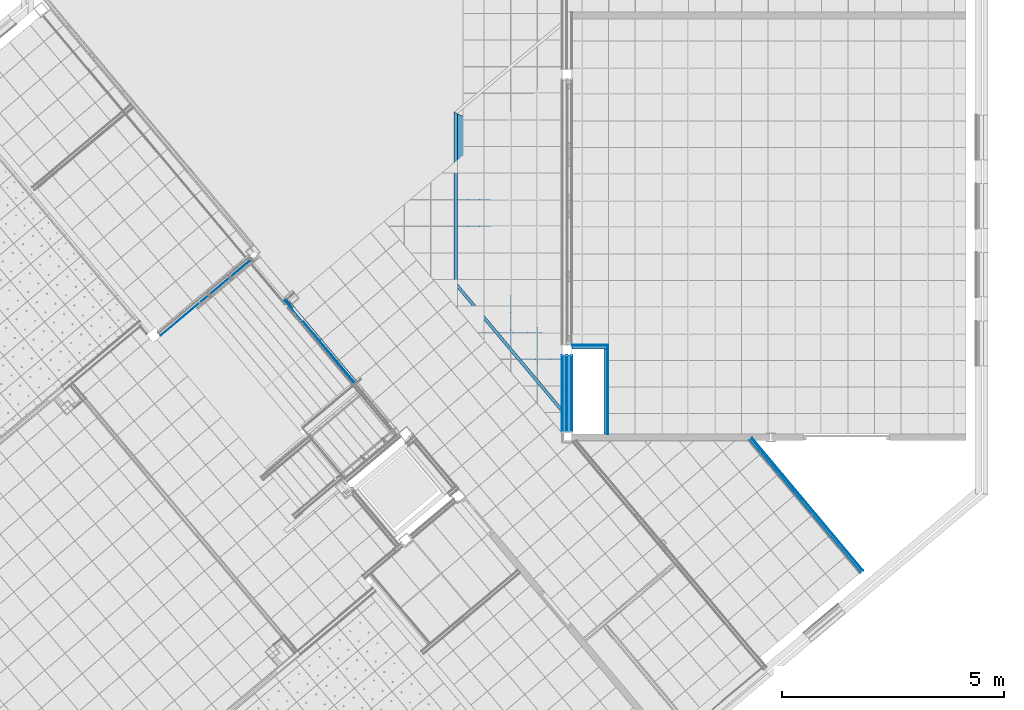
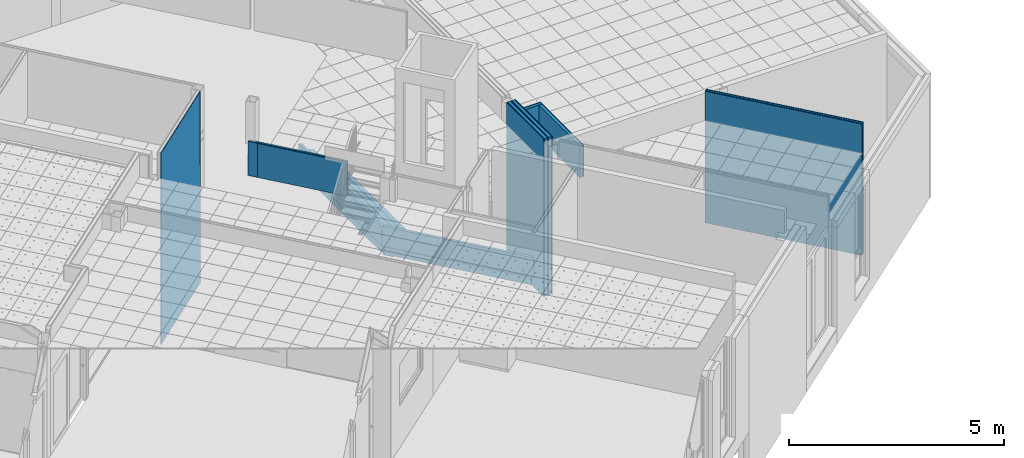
# One storey, part 71 of 338: 30 building element parts, 10 elements without a shape of their own.
"""IFC2X3 building model written with IfcOpenShell, lengths in millimetres."""

from ifc_helpers import new_model, entity, si_unit, converted_unit, derived_unit, money_unit, direction, frame, origin_with_axes, place, context, subcontext, project, spatial, faceted_brep, material, type_object, element, aggregate, save


model = new_model("IFC2X3")

# Units and contexts
model_context = context("Model", 3, precision=0.01, world=origin_with_axes(), true_north=direction((0.0, 1.0)))
plan_context = context("Plan", 3, precision=0.01, world=origin_with_axes(), true_north=direction((0.0, 1.0)))
body_context = subcontext(model_context, "Body", "Model", "MODEL_VIEW")
ifc_project = project(units=[si_unit("LENGTHUNIT", "METRE", prefix="MILLI"), si_unit("AREAUNIT", "SQUARE_METRE"), si_unit("VOLUMEUNIT", "CUBIC_METRE"), converted_unit("PLANEANGLEUNIT", "DEGREE", entity("IfcPlaneAngleMeasure", 0.0174532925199), si_unit("PLANEANGLEUNIT", "RADIAN"), dimensions=[0, 0, 0, 0, 0, 0, 0]), money_unit("EUR"), converted_unit("TIMEUNIT", "Year", entity("IfcTimeMeasure", 31556926.0), si_unit("TIMEUNIT", "SECOND"), dimensions=[0, 0, 1, 0, 0, 0, 0]), si_unit("MASSUNIT", "GRAM", prefix="KILO"), si_unit("THERMODYNAMICTEMPERATUREUNIT", "DEGREE_CELSIUS"), si_unit("LUMINOUSINTENSITYUNIT", "LUMEN"), si_unit("ENERGYUNIT", "JOULE", prefix="MEGA"), derived_unit("THERMALCONDUCTANCEUNIT", [(si_unit("POWERUNIT", "WATT"), 1), (si_unit("LENGTHUNIT", "METRE"), -1), (si_unit("THERMODYNAMICTEMPERATUREUNIT", "KELVIN"), -1)]), derived_unit("SPECIFICHEATCAPACITYUNIT", [(si_unit("ENERGYUNIT", "JOULE"), 1), (si_unit("MASSUNIT", "GRAM", prefix="KILO"), -1), (si_unit("THERMODYNAMICTEMPERATUREUNIT", "KELVIN"), -1)]), derived_unit("MASSDENSITYUNIT", [(si_unit("MASSUNIT", "GRAM", prefix="KILO"), 1), (si_unit("VOLUMEUNIT", "CUBIC_METRE"), -1)])], contexts=[model_context, plan_context])

# Site, building, storey
site_placement = place(None, origin_with_axes())
site = spatial("IfcSite", under=ifc_project, at=site_placement, Name="Fortuinstraat Woensdrecht", CompositionType="ELEMENT")
building_placement = place(site_placement, origin_with_axes())
building = spatial("IfcBuilding", under=site, at=building_placement, Name="IKC Fortuna", CompositionType="ELEMENT")
storey_placement = place(building_placement, origin_with_axes())
storey = spatial("IfcBuildingStorey", under=building, at=storey_placement, Name="00 begane grond", CompositionType="ELEMENT", Elevation=0.0)

# Wall, building element parts
wall_type_1 = type_object("IfcWallType", Name="MS125 2.75.2A 125", PredefinedType="NOTDEFINED")
wall_1_placement = place(storey_placement, frame((25497.9349765, 3599.79662827, -835.0), z_axis=(0.0, 0.0, 1.0), x_axis=(0.0, -1.0, 0.0)))
wall_1 = element("IfcWall", 1, at=wall_1_placement, inside=storey, type_object=wall_type_1, Name="22_Wand_Binnenwand")
ifc_material_1 = material(Name="Gipsplaat")
building_element_part_1_placement = place(wall_1_placement, origin_with_axes())
building_element_part_1 = element("IfcBuildingElementPart", 2, at=building_element_part_1_placement, material=ifc_material_1, Name="Gipsplaat", context=body_context, shape_type="Brep", body=[
    faceted_brep([(1725.0, 112.5, 4485.0), (1725.0, 125.0, 4485.0), (0.0, 125.0, 4485.0), (0.0, 112.5, 4485.0), (1725.0, 112.5, 0.0), (1725.0, 125.0, 0.0), (0.0, 125.0, 0.0), (0.0, 112.5, 0.0)], [[[0, 1, 2, 3]], [[0, 4, 5, 1]], [[1, 5, 6, 2]], [[3, 2, 6, 7]], [[4, 0, 3, 7]], [[5, 4, 7, 6]]]),
])
building_element_part_2_placement = place(wall_1_placement, origin_with_axes())
building_element_part_2 = element("IfcBuildingElementPart", 3, at=building_element_part_2_placement, material=ifc_material_1, Name="Gipsplaat", context=body_context, shape_type="Brep", body=[
    faceted_brep([(1725.0, 100.0, 4485.0), (1725.0, 112.5, 4485.0), (0.0, 112.5, 4485.0), (0.0, 100.0, 4485.0), (1725.0, 100.0, 0.0), (1725.0, 112.5, 0.0), (0.0, 112.5, 0.0), (0.0, 100.0, 0.0)], [[[0, 1, 2, 3]], [[0, 4, 5, 1]], [[1, 5, 6, 2]], [[3, 2, 6, 7]], [[4, 0, 3, 7]], [[5, 4, 7, 6]]]),
])
ifc_material_2 = material(Name="Isolatie - Steenwol LSW")
building_element_part_3_placement = place(wall_1_placement, origin_with_axes())
building_element_part_3 = element("IfcBuildingElementPart", 4, at=building_element_part_3_placement, material=ifc_material_2, Name="Isolatie - Steenwol LSW", context=body_context, shape_type="Brep", body=[
    faceted_brep([(1725.0, 25.0, 4485.0), (1725.0, 100.0, 4485.0), (0.0, 100.0, 4485.0), (0.0, 25.0, 4485.0), (1725.0, 25.0, 0.0), (1725.0, 100.0, 0.0), (0.0, 100.0, 0.0), (0.0, 25.0, 0.0)], [[[0, 1, 2, 3]], [[0, 4, 5, 1]], [[1, 5, 6, 2]], [[3, 2, 6, 7]], [[4, 0, 3, 7]], [[5, 4, 7, 6]]]),
])
building_element_part_4_placement = place(wall_1_placement, origin_with_axes())
building_element_part_4 = element("IfcBuildingElementPart", 5, at=building_element_part_4_placement, material=ifc_material_1, Name="Gipsplaat", context=body_context, shape_type="Brep", body=[
    faceted_brep([(1725.0, 12.5, 4485.0), (1725.0, 25.0, 4485.0), (0.0, 25.0, 4485.0), (0.0, 12.5, 4485.0), (1725.0, 12.5, 0.0), (1725.0, 25.0, 0.0), (0.0, 25.0, 0.0), (0.0, 12.5, 0.0)], [[[0, 1, 2, 3]], [[0, 4, 5, 1]], [[1, 5, 6, 2]], [[3, 2, 6, 7]], [[4, 0, 3, 7]], [[5, 4, 7, 6]]]),
])
building_element_part_5_placement = place(wall_1_placement, origin_with_axes())
building_element_part_5 = element("IfcBuildingElementPart", 6, at=building_element_part_5_placement, material=ifc_material_1, Name="Gipsplaat", context=body_context, shape_type="Brep", body=[
    faceted_brep([(1725.0, 0.0, 4485.0), (1725.0, 12.5, 4485.0), (0.0, 12.5, 4485.0), (0.0, 0.0, 4485.0), (1725.0, 0.0, 0.0), (1725.0, 12.5, 0.0), (0.0, 12.5, 0.0), (0.0, 0.0, 0.0)], [[[0, 1, 2, 3]], [[0, 4, 5, 1]], [[1, 5, 6, 2]], [[3, 2, 6, 7]], [[4, 0, 3, 7]], [[5, 4, 7, 6]]]),
])
aggregate(wall_1, [building_element_part_1, building_element_part_2, building_element_part_3, building_element_part_4, building_element_part_5])

wall_type_2 = type_object("IfcWallType", Name="MS100 2.50.2A 100", PredefinedType="NOTDEFINED")
wall_2_placement = place(storey_placement, frame((32300.9666608, -1241.88466882, -90.0), z_axis=(0.0, 0.0, 1.0), x_axis=(-0.642787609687, 0.766044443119, 0.0)))
wall_2 = element("IfcWall", 7, at=wall_2_placement, inside=storey, type_object=wall_type_2, Name="22_Wand_Binnenwand")
building_element_part_6_placement = place(wall_2_placement, origin_with_axes())
building_element_part_6 = element("IfcBuildingElementPart", 8, at=building_element_part_6_placement, material=ifc_material_1, Name="Gipsplaat", context=body_context, shape_type="Brep", body=[
    faceted_brep([(3894.62424743, 87.5, 3740.0), (3894.62424743, 100.0, 3740.0), (0.0, 100.0, 3740.0), (0.0, 87.5, 3740.0), (3894.62424743, 87.5, 0.0), (3894.62424743, 100.0, 0.0), (0.0, 100.0, 0.0), (0.0, 87.5, 0.0)], [[[0, 1, 2, 3]], [[0, 4, 5, 1]], [[1, 5, 6, 2]], [[3, 2, 6, 7]], [[4, 0, 3, 7]], [[5, 4, 7, 6]]]),
])
building_element_part_7_placement = place(wall_2_placement, origin_with_axes())
building_element_part_7 = element("IfcBuildingElementPart", 9, at=building_element_part_7_placement, material=ifc_material_1, Name="Gipsplaat", context=body_context, shape_type="Brep", body=[
    faceted_brep([(3894.62424743, 75.0, 3740.0), (3894.62424743, 87.5, 3740.0), (0.0, 87.5, 3740.0), (0.0, 75.0, 3740.0), (3894.62424743, 75.0, 0.0), (3894.62424743, 87.5, 0.0), (0.0, 87.5, 0.0), (0.0, 75.0, 0.0)], [[[0, 1, 2, 3]], [[0, 4, 5, 1]], [[1, 5, 6, 2]], [[3, 2, 6, 7]], [[4, 0, 3, 7]], [[5, 4, 7, 6]]]),
])
building_element_part_8_placement = place(wall_2_placement, origin_with_axes())
building_element_part_8 = element("IfcBuildingElementPart", 10, at=building_element_part_8_placement, material=ifc_material_2, Name="Isolatie - Steenwol LSW", context=body_context, shape_type="Brep", body=[
    faceted_brep([(3894.62424743, 25.0, 3740.0), (3894.62424743, 75.0, 3740.0), (0.0, 75.0, 3740.0), (0.0, 25.0, 3740.0), (3894.62424743, 25.0, 0.0), (3894.62424743, 75.0, 0.0), (0.0, 75.0, 0.0), (0.0, 25.0, 0.0)], [[[0, 1, 2, 3]], [[0, 4, 5, 1]], [[1, 5, 6, 2]], [[3, 2, 6, 7]], [[4, 0, 3, 7]], [[5, 4, 7, 6]]]),
])
building_element_part_9_placement = place(wall_2_placement, origin_with_axes())
building_element_part_9 = element("IfcBuildingElementPart", 11, at=building_element_part_9_placement, material=ifc_material_1, Name="Gipsplaat", context=body_context, shape_type="Brep", body=[
    faceted_brep([(3894.62424743, 12.5, 3740.0), (3894.62424743, 25.0, 3740.0), (0.0, 25.0, 3740.0), (0.0, 12.5, 3740.0), (3894.62424743, 12.5, 0.0), (3894.62424743, 25.0, 0.0), (0.0, 25.0, 0.0), (0.0, 12.5, 0.0)], [[[0, 1, 2, 3]], [[0, 4, 5, 1]], [[1, 5, 6, 2]], [[3, 2, 6, 7]], [[4, 0, 3, 7]], [[5, 4, 7, 6]]]),
])
building_element_part_10_placement = place(wall_2_placement, origin_with_axes())
building_element_part_10 = element("IfcBuildingElementPart", 12, at=building_element_part_10_placement, material=ifc_material_1, Name="Gipsplaat", context=body_context, shape_type="Brep", body=[
    faceted_brep([(3894.62424743, 0.0, 3740.0), (3894.62424743, 12.5, 3740.0), (0.0, 12.5, 3740.0), (0.0, 0.0, 3740.0), (3894.62424743, 0.0, 0.0), (3894.62424743, 12.5, 0.0), (0.0, 12.5, 0.0), (0.0, 0.0, 0.0)], [[[0, 1, 2, 3]], [[0, 4, 5, 1]], [[1, 5, 6, 2]], [[3, 2, 6, 7]], [[4, 0, 3, 7]], [[5, 4, 7, 6]]]),
])
aggregate(wall_2, [building_element_part_6, building_element_part_7, building_element_part_8, building_element_part_9, building_element_part_10])

# Wall, building element part
wall_3_placement = place(storey_placement, frame((16458.2534376, 4043.70975416, -350.0), z_axis=(0.0, 0.0, 1.0), x_axis=(0.766044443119, 0.642787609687, 0.0)))
wall_3 = element("IfcWall", 13, at=wall_3_placement, inside=storey, type_object=wall_type_2, Name="22_Wand_Binnenwand")
building_element_part_11_placement = place(wall_3_placement, origin_with_axes())
building_element_part_11 = element("IfcBuildingElementPart", 14, at=building_element_part_11_placement, material=ifc_material_1, Name="Gipsplaat", context=body_context, shape_type="Brep", body=[
    faceted_brep([(2677.99994969, 5.48433263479, 3350.0), (2652.99994969, 5.48433645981, 3350.0), (2652.99994885, 0.0, 3350.0), (2677.99994885, 0.0, 3350.0), (2652.99994969, 5.48433645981, 5450.0), (2677.99994969, 5.48433263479, 5450.0), (2652.99994885, 0.0, 5450.0), (0.0, 0.0, 5450.0), (0.0, 0.0, 0.0), (2685.49994966, 0.0, 0.0), (2685.49994966, 0.0, 5450.0), (2677.99994885, 0.0, 5450.0), (2685.49994966, 12.5, 5450.0), (0.0, 12.5, 5450.0), (0.0, 12.5, 0.0), (2685.49994966, 12.5, 0.0)], [[[0, 1, 2, 3]], [[4, 1, 0, 5]], [[4, 6, 2, 1]], [[2, 6, 7, 8, 9, 10, 11, 3]], [[3, 11, 5, 0]], [[4, 5, 11, 10, 12, 13, 7, 6]], [[8, 7, 13, 14]], [[14, 15, 9, 8]], [[12, 10, 9, 15]], [[13, 12, 15, 14]]]),
])
aggregate(wall_3, [building_element_part_11])

# Stair, building element parts
stair_1_placement = place(storey_placement, frame((23891.1597189, 5500.2506472, -835.0), z_axis=(0.0, 0.0, 1.0), x_axis=(-0.766044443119, -0.642787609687, 0.0)))
stair_1 = element("IfcStair", 15, at=stair_1_placement, inside=storey, Name="24_Trap_Traptreden beton", ShapeType="NOTDEFINED")
ifc_material_3 = material(Name="Beton gewapend C")
building_element_part_12_placement = place(stair_1_placement, origin_with_axes())
building_element_part_12 = element("IfcBuildingElementPart", 16, at=building_element_part_12_placement, material=ifc_material_3, Name="Beton gewapend C", context=body_context, shape_type="Brep", body=[
    faceted_brep([(750.000004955, 3384.999824, 265.000000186), (820.0, 3467.62793626, 265.000000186), (820.0, -298.455588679, 265.000000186), (750.000004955, -272.977674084, 265.000000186), (750.000004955, 3384.999824, 648.749995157), (750.000004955, 3384.999824, 835.0), (820.0, 3467.62793626, 835.0), (820.0, -298.455588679, 835.0), (750.000004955, -272.977674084, 835.0), (750.000004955, -272.977674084, 648.749995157)], [[[0, 1, 2, 3]], [[0, 4, 5, 6, 1]], [[1, 6, 7, 2]], [[3, 2, 7, 8, 9]], [[4, 0, 3, 9]], [[5, 4, 9, 8]], [[6, 5, 8, 7]]]),
])
building_element_part_13_placement = place(stair_1_placement, origin_with_axes())
building_element_part_13 = element("IfcBuildingElementPart", 17, at=building_element_part_13_placement, material=ifc_material_3, Name="Beton gewapend C", context=body_context, shape_type="Brep", body=[
    faceted_brep([(750.000000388, 3384.99981861, 0.0), (0.0, 2499.69855275, 0.0), (0.0, 2499.69855275, 276.25), (250.0, 2794.79897455, 276.25), (250.0, 2794.79897455, 462.5), (500.0, 3089.89939635, 462.5), (500.0, 3089.89939635, 648.75), (750.0, 3384.99981815, 648.75), (750.000004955, 3384.999824, 265.000000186), (0.0, 3.41935901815e-06, 0.0), (750.000000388, -42.3023239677, 0.0), (601.724744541, -219.009892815, 0.0), (0.0, 3.41935901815e-06, 276.25), (250.0, -90.9925551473, 276.25), (250.0, -90.9925551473, 462.5), (500.0, -181.985113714, 462.5), (500.0, -181.985113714, 648.75), (750.0, -272.977672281, 648.75), (750.000004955, -272.977674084, 265.000000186), (750.0, -272.977672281, -22.5), (750.0, -42.3023244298, -22.5), (601.724744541, -219.009892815, -22.5)], [[[0, 1, 2, 3, 4, 5, 6, 7, 8]], [[9, 1, 0, 10, 11]], [[1, 9, 12, 2]], [[13, 3, 2, 12]], [[14, 4, 3, 13]], [[15, 5, 4, 14]], [[16, 6, 5, 15]], [[17, 7, 6, 16]], [[18, 8, 7, 17]], [[10, 0, 8, 18, 19, 20]], [[21, 11, 10, 20]], [[11, 21, 19, 18, 17, 16, 15, 14, 13, 12, 9]], [[21, 20, 19]]]),
])
aggregate(stair_1, [building_element_part_12, building_element_part_13])

stair_2_placement = place(storey_placement, frame((23891.1597189, 5500.2506472, -835.0), z_axis=(0.0, 0.0, 1.0), x_axis=(1.0, 0.0, 0.0)))
stair_2 = element("IfcStair", 18, at=stair_2_placement, inside=storey, Name="24_Trap_Traptreden beton", ShapeType="NOTDEFINED")
building_element_part_14_placement = place(stair_2_placement, origin_with_axes())
building_element_part_14 = element("IfcBuildingElementPart", 19, at=building_element_part_14_placement, material=ifc_material_3, Name="Beton gewapend C", context=body_context, shape_type="Brep", body=[
    faceted_brep([(-750.000004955, -272.977680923, 648.749995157), (-750.000004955, 3554.09506452, 648.749995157), (-750.000004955, 3554.09506452, 835.0), (-750.000004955, -272.977680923, 835.0), (-750.000004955, -272.977680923, 265.000000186), (-750.000004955, 3554.09506452, 265.000000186), (-820.0, 3586.73659828, 265.000000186), (-820.0, 3586.73659828, 835.0), (-820.0, -298.455595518, 835.0), (-820.0, -298.455595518, 265.000000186)], [[[0, 1, 2, 3]], [[4, 5, 1, 0]], [[2, 1, 5, 6, 7]], [[3, 2, 7, 8]], [[4, 0, 3, 8, 9]], [[9, 6, 5, 4]], [[8, 7, 6, 9]]]),
])
building_element_part_15_placement = place(stair_2_placement, origin_with_axes())
building_element_part_15 = element("IfcBuildingElementPart", 20, at=building_element_part_15_placement, material=ifc_material_3, Name="Beton gewapend C", context=body_context, shape_type="Brep", body=[
    faceted_brep([(0.0, -3.41936168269e-06, 0.0), (0.0, 3204.36431859, 0.0), (0.0, 3204.36431859, 276.25), (0.0, -3.41936168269e-06, 276.25), (-601.724742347, 3484.95317405, 0.0), (-601.724742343, -219.009898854, 0.0), (-601.724742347, 3484.95317405, -22.5), (-750.0, 3554.09506221, -22.5), (-750.000004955, 3554.09506452, 265.000000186), (-750.0, 3554.09506221, 648.75), (-500.0, 3437.51814767, 648.75), (-500.0, 3437.51814767, 462.5), (-250.0, 3320.94123313, 462.5), (-250.0, 3320.94123313, 276.25), (-250.0, -90.992561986, 276.25), (-250.0, -90.992561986, 462.5), (-500.0, -181.985120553, 462.5), (-500.0, -181.985120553, 648.75), (-750.0, -272.977679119, 648.75), (-750.000004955, -272.977680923, 265.000000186), (-750.0, -272.977679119, -22.5), (-601.724742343, -219.009898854, -22.5)], [[[0, 1, 2, 3]], [[4, 1, 0, 5]], [[4, 6, 7, 8, 9, 10, 11, 12, 13, 2, 1]], [[3, 2, 13, 14]], [[5, 0, 3, 14, 15, 16, 17, 18, 19, 20, 21]], [[6, 4, 5, 21]], [[6, 21, 20, 7]], [[19, 8, 7, 20]], [[18, 9, 8, 19]], [[17, 10, 9, 18]], [[16, 11, 10, 17]], [[15, 12, 11, 16]], [[14, 13, 12, 15]]]),
])
aggregate(stair_2, [building_element_part_14, building_element_part_15])

# Wall, building element parts
wall_type_3 = type_object("IfcWallType", Name="MS75 50.2A 75", PredefinedType="NOTDEFINED")
wall_4_placement = place(storey_placement, frame((19254.3413003, 4838.79723391, 3000.0), z_axis=(0.0, 0.0, 1.0), x_axis=(0.642787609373, -0.766044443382, 0.0)))
wall_4 = element("IfcWall", 21, at=wall_4_placement, inside=storey, type_object=wall_type_3, Name="22_Wand_koof")
building_element_part_16_placement = place(wall_4_placement, origin_with_axes())
building_element_part_16 = element("IfcBuildingElementPart", 22, at=building_element_part_16_placement, material=ifc_material_2, Name="Isolatie - Steenwol LSW", context=body_context, shape_type="Brep", body=[
    faceted_brep([(234.599943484, 67.4832244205, 0.0), (234.599943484, 67.4832244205, 20.0), (234.599943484, 75.0, 20.0), (234.599943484, 75.0, 633.0), (234.599943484, 24.9999994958, 633.0), (234.599943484, 24.9999999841, 20.0), (234.599943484, 62.4832214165, 20.0), (234.599943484, 62.4832214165, 0.0), (70.404757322, 67.4832503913, 0.0), (70.404757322, 67.4832503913, 20.0), (70.4047583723, 75.0, 20.0), (70.4047583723, 75.0, 0.0), (0.0, 75.0, 0.0), (0.0, 75.0, 633.0), (0.0, 24.9999993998, 633.0), (70.4047472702, 24.9999994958, 20.0), (0.0, 25.0, 0.0), (70.4047472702, 25.0, 0.0), (70.4047539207, 62.48324519, 20.0), (70.4047539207, 62.48324519, 0.0)], [[[0, 1, 2, 3, 4, 5, 6, 7]], [[1, 0, 8, 9]], [[10, 2, 1, 9]], [[10, 11, 12, 13, 3, 2]], [[14, 4, 3, 13]], [[15, 5, 4, 14, 16, 17]], [[6, 5, 15, 18]], [[7, 6, 18, 19]], [[8, 0, 7, 19, 17, 16, 12, 11]], [[11, 10, 9, 8]], [[16, 14, 13, 12]], [[17, 19, 18, 15]]]),
    faceted_brep([(143.499665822, 44.9999994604, 970.0), (143.49966581, 75.0, 970.0), (0.0, 75.0, 970.0), (0.0, 44.9999994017, 970.0), (143.49966581, 75.0, 873.0), (143.499665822, 44.9999994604, 873.0), (0.0, 75.0, 873.0), (0.0, 44.9999994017, 873.0)], [[[0, 1, 2, 3]], [[4, 1, 0, 5]], [[1, 4, 6, 2]], [[7, 3, 2, 6]], [[5, 0, 3, 7]], [[4, 5, 7, 6]]]),
    faceted_brep([(166.99966581, 75.0, 873.0), (166.99966581, 75.0, 970.0), (234.599943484, 75.0, 970.0), (234.599943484, 75.0, 873.0), (166.999665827, 32.49999947, 970.0), (166.999665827, 32.49999947, 873.0), (0.0, 32.4999994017, 970.0), (0.0, 25.0, 970.0), (234.599943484, 25.0, 970.0), (234.599943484, 24.9999994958, 873.0), (0.0, 24.9999993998, 873.0), (0.0, 32.4999994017, 873.0)], [[[0, 1, 2, 3]], [[4, 1, 0, 5]], [[4, 6, 7, 8, 2, 1]], [[8, 9, 3, 2]], [[5, 0, 3, 9, 10, 11]], [[6, 4, 5, 11]], [[6, 11, 10, 7]], [[7, 10, 9, 8]]]),
    faceted_brep([(234.599943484, 75.0, 856.0), (234.599943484, 24.9999994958, 856.0), (234.599943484, 24.9999994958, 650.0), (234.599943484, 75.0, 650.0), (0.0, 75.0, 856.0), (0.0, 24.9999993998, 856.0), (0.0, 24.9999993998, 650.0), (0.0, 75.0, 650.0)], [[[0, 1, 2, 3]], [[1, 0, 4, 5]], [[1, 5, 6, 2]], [[7, 3, 2, 6]], [[4, 0, 3, 7]], [[5, 4, 7, 6]]]),
])
building_element_part_17_placement = place(wall_4_placement, origin_with_axes())
building_element_part_17 = element("IfcBuildingElementPart", 23, at=building_element_part_17_placement, material=ifc_material_1, Name="Gipsplaat", context=body_context, shape_type="Brep", body=[
    faceted_brep([(234.599943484, 15.0000832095, 0.0), (234.599943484, 15.0000832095, 20.0), (234.599943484, 25.0, 20.0), (234.599943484, 25.0, 970.0), (234.599943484, 12.5, 970.0), (234.599943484, 12.5, 0.0), (70.4047454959, 15.0001082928, 0.0), (70.4047454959, 15.0001082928, 20.0), (70.4047472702, 25.0, 20.0), (70.4047472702, 25.0, 0.0), (0.0, 25.0, 0.0), (0.0, 25.0, 970.0), (0.0, 12.5, 970.0), (0.0, 12.5, 0.0)], [[[0, 1, 2, 3, 4, 5]], [[1, 0, 6, 7]], [[8, 2, 1, 7]], [[8, 9, 10, 11, 3, 2]], [[3, 11, 12, 4]], [[4, 12, 13, 5]], [[6, 0, 5, 13, 10, 9]], [[9, 8, 7, 6]], [[13, 12, 11, 10]]]),
])
building_element_part_18_placement = place(wall_4_placement, origin_with_axes())
building_element_part_18 = element("IfcBuildingElementPart", 24, at=building_element_part_18_placement, material=ifc_material_1, Name="Gipsplaat", context=body_context, shape_type="Brep", body=[
    faceted_brep([(234.599943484, 0.0, 0.0), (0.0, 0.0, 0.0), (0.0, 12.5, 0.0), (234.599943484, 12.5, 0.0), (234.599943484, 0.0, 970.0), (0.0, 0.0, 970.0), (0.0, 12.5, 970.0), (234.599943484, 12.5, 970.0)], [[[0, 1, 2, 3]], [[4, 5, 1, 0]], [[1, 5, 6, 2]], [[3, 2, 6, 7]], [[7, 4, 0, 3]], [[7, 6, 5, 4]]]),
])
aggregate(wall_4, [building_element_part_16, building_element_part_17, building_element_part_18])

wall_5_placement = place(storey_placement, frame((19405.1392371, 4659.08325078, 3000.0), z_axis=(0.0, 0.0, 1.0), x_axis=(0.642787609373, -0.766044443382, 0.0)))
wall_5 = element("IfcWall", 25, at=wall_5_placement, inside=storey, type_object=wall_type_3, Name="22_Wand_koof")
building_element_part_19_placement = place(wall_5_placement, origin_with_axes())
building_element_part_19 = element("IfcBuildingElementPart", 26, at=building_element_part_19_placement, material=ifc_material_2, Name="Isolatie - Steenwol LSW", context=body_context, shape_type="Brep", body=[
    faceted_brep([(379.363258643, 62.4831576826, 0.0), (379.363245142, 25.0, 0.0), (374.363249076, 25.0, 0.0), (374.363251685, 62.4831672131, 0.0), (0.0, 62.4832214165, 0.0), (0.0, 67.4832244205, 0.0), (374.363253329, 67.4831652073, 0.0), (374.363254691, 75.0, 0.0), (379.363258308, 75.0, 0.0), (379.363257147, 67.4831698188, 0.0), (974.363250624, 67.4830698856, 0.0), (974.363251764, 75.0, 0.0), (979.363258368, 75.0, 0.0), (979.363257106, 67.483078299, 0.0), (1574.36325866, 67.4829879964, 0.0), (1574.3632597, 75.0, 0.0), (1579.36325831, 75.0, 0.0), (1579.36325715, 67.4829867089, 0.0), (2174.36325062, 67.4828867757, 0.0), (2174.36325176, 75.0, 0.0), (2179.36325837, 75.0, 0.0), (2179.36325711, 67.482895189, 0.0), (2222.86307208, 67.4828885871, 0.0), (2222.86307208, 62.4828817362, 0.0), (2179.3632603, 62.4828883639, 0.0), (2179.36324308, 25.0, 0.0), (2174.36325545, 25.0, 0.0), (2174.36326009, 62.4828892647, 0.0), (1579.3632603, 62.4829799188, 0.0), (1579.36324308, 25.0, 0.0), (1574.36324865, 25.0, 0.0), (1574.36325843, 62.4829754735, 0.0), (979.363258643, 62.4830661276, 0.0), (979.363245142, 25.0, 0.0), (974.363248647, 25.0, 0.0), (974.363258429, 62.4830670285, 0.0), (379.363258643, 62.4831576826, 20.0), (379.363245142, 25.0000004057, 20.0), (974.363248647, 25.0000004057, 20.0), (979.363245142, 25.0000004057, 20.0), (1574.36324865, 25.0000004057, 20.0), (1579.36324308, 25.0000004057, 20.0), (2174.36325545, 25.0000004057, 20.0), (2179.36324308, 25.0000004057, 20.0), (2222.86307208, 25.0000000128, 20.0), (2222.86307208, 25.0000004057, 633.0), (0.0, 24.9999994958, 633.0), (0.0, 24.9999999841, 20.0), (374.363249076, 25.0000004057, 20.0), (374.363251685, 62.4831672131, 20.0), (0.0, 62.4832214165, 20.0), (0.0, 67.4832244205, 20.0), (0.0, 75.0, 633.0), (0.0, 75.0, 20.0), (374.363253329, 67.4831652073, 20.0), (374.363254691, 75.0, 20.0), (979.363258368, 75.0, 20.0), (974.363251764, 75.0, 20.0), (379.363258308, 75.0, 20.0), (2222.86307208, 75.0, 633.0), (2222.86307208, 75.0, 20.0), (2179.36325837, 75.0, 20.0), (2174.36325176, 75.0, 20.0), (1579.36325831, 75.0, 20.0), (1574.3632597, 75.0, 20.0), (379.363257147, 67.4831698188, 20.0), (974.363250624, 67.4830698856, 20.0), (979.363257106, 67.483078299, 20.0), (1574.36325866, 67.4829879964, 20.0), (1579.36325715, 67.4829867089, 20.0), (2174.36325062, 67.4828867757, 20.0), (2179.36325711, 67.482895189, 20.0), (2222.86307208, 67.4828885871, 20.0), (2222.86307208, 62.4828817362, 20.0), (2179.3632603, 62.4828883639, 20.0), (2174.36326009, 62.4828892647, 20.0), (1579.3632603, 62.4829799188, 20.0), (1574.36325843, 62.4829754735, 20.0), (979.363258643, 62.4830661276, 20.0), (974.363258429, 62.4830670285, 20.0)], [[[0, 1, 2, 3, 4, 5, 6, 7, 8, 9, 10, 11, 12, 13, 14, 15, 16, 17, 18, 19, 20, 21, 22, 23, 24, 25, 26, 27, 28, 29, 30, 31, 32, 33, 34, 35]], [[1, 0, 36, 37]], [[38, 34, 33, 39, 40, 30, 29, 41, 42, 26, 25, 43, 44, 45, 46, 47, 48, 2, 1, 37]], [[3, 2, 48, 49]], [[4, 3, 49, 50]], [[51, 5, 4, 50, 47, 46, 52, 53]], [[6, 5, 51, 54]], [[55, 7, 6, 54]], [[56, 12, 11, 57, 58, 8, 7, 55, 53, 52, 59, 60, 61, 20, 19, 62, 63, 16, 15, 64]], [[8, 58, 65, 9]], [[10, 9, 65, 66]], [[57, 11, 10, 66]], [[12, 56, 67, 13]], [[14, 13, 67, 68]], [[64, 15, 14, 68]], [[16, 63, 69, 17]], [[18, 17, 69, 70]], [[62, 19, 18, 70]], [[20, 61, 71, 21]], [[72, 22, 21, 71]], [[73, 23, 22, 72, 60, 59, 45, 44]], [[23, 73, 74, 24]], [[25, 24, 74, 43]], [[27, 26, 42, 75]], [[28, 27, 75, 76]], [[29, 28, 76, 41]], [[31, 30, 40, 77]], [[32, 31, 77, 78]], [[33, 32, 78, 39]], [[35, 34, 38, 79]], [[0, 35, 79, 36]], [[38, 37, 36, 79]], [[40, 39, 78, 77]], [[42, 41, 76, 75]], [[73, 44, 43, 74]], [[46, 45, 59, 52]], [[48, 47, 50, 49]], [[53, 55, 54, 51]], [[58, 57, 66, 65]], [[61, 60, 72, 71]], [[63, 62, 70, 69]], [[56, 64, 68, 67]]]),
    faceted_brep([(2222.86307208, 75.0, 856.0), (2222.86307208, 25.0000004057, 856.0), (2222.86307208, 25.0000004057, 650.0), (2222.86307208, 75.0, 650.0), (0.0, 75.0, 856.0), (0.0, 24.9999994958, 856.0), (0.0, 24.9999994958, 650.0), (0.0, 75.0, 650.0)], [[[0, 1, 2, 3]], [[1, 0, 4, 5]], [[1, 5, 6, 2]], [[7, 3, 2, 6]], [[4, 0, 3, 7]], [[5, 4, 7, 6]]]),
    faceted_brep([(2222.86307208, 25.0000004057, 873.0), (2222.86307208, 75.0, 873.0), (2222.86307208, 75.0, 970.0), (2222.86307208, 25.0, 970.0), (0.0, 75.0, 873.0), (0.0, 24.9999994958, 873.0), (0.0, 75.0, 970.0), (0.0, 25.0, 970.0)], [[[0, 1, 2, 3]], [[4, 1, 0, 5]], [[1, 4, 6, 2]], [[7, 3, 2, 6]], [[5, 0, 3, 7]], [[4, 5, 7, 6]]]),
])
building_element_part_20_placement = place(wall_5_placement, origin_with_axes())
building_element_part_20 = element("IfcBuildingElementPart", 27, at=building_element_part_20_placement, material=ifc_material_1, Name="Gipsplaat", context=body_context, shape_type="Brep", body=[
    faceted_brep([(379.363245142, 25.0, 20.0), (379.363245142, 25.0, 0.0), (374.363249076, 25.0, 0.0), (374.363249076, 25.0, 20.0), (0.0, 25.0, 20.0), (0.0, 25.0, 970.0), (2222.86307208, 25.0, 970.0), (2222.86307208, 25.0, 20.0), (2179.36324308, 25.0, 20.0), (2179.36324308, 25.0, 0.0), (2174.36325545, 25.0, 0.0), (2174.36325545, 25.0, 20.0), (1579.36324308, 25.0, 20.0), (1579.36324308, 25.0, 0.0), (1574.36324865, 25.0, 0.0), (1574.36324865, 25.0, 20.0), (979.363245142, 25.0, 20.0), (979.363245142, 25.0, 0.0), (974.363248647, 25.0, 0.0), (974.363248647, 25.0, 20.0), (379.363241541, 15.000027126, 20.0), (379.363241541, 15.000027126, 0.0), (974.363246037, 14.9999420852, 0.0), (979.363241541, 14.9999355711, 0.0), (1574.36324604, 14.9998505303, 0.0), (1579.36323849, 14.9998437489, 0.0), (2174.36325421, 14.9997492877, 0.0), (2179.36323849, 14.9997521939, 0.0), (2222.86307208, 14.9997452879, 0.0), (2222.86307208, 12.5, 0.0), (0.0, 12.5, 0.0), (0.0, 15.0000832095, 0.0), (374.36324838, 15.0000260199, 0.0), (374.36324838, 15.0000260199, 20.0), (0.0, 15.0000832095, 20.0), (0.0, 12.5, 970.0), (2222.86307208, 12.5, 970.0), (2222.86307208, 14.9997452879, 20.0), (2179.36323849, 14.9997521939, 20.0), (2174.36325421, 14.9997492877, 20.0), (1579.36323849, 14.9998437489, 20.0), (1574.36324604, 14.9998505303, 20.0), (979.363241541, 14.9999355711, 20.0), (974.363246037, 14.9999420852, 20.0)], [[[0, 1, 2, 3, 4, 5, 6, 7, 8, 9, 10, 11, 12, 13, 14, 15, 16, 17, 18, 19]], [[1, 0, 20, 21]], [[22, 18, 17, 23, 24, 14, 13, 25, 26, 10, 9, 27, 28, 29, 30, 31, 32, 2, 1, 21]], [[3, 2, 32, 33]], [[4, 3, 33, 34]], [[34, 31, 30, 35, 5, 4]], [[5, 35, 36, 6]], [[28, 37, 7, 6, 36, 29]], [[8, 7, 37, 38]], [[9, 8, 38, 27]], [[11, 10, 26, 39]], [[12, 11, 39, 40]], [[13, 12, 40, 25]], [[15, 14, 24, 41]], [[16, 15, 41, 42]], [[17, 16, 42, 23]], [[19, 18, 22, 43]], [[0, 19, 43, 20]], [[22, 21, 20, 43]], [[24, 23, 42, 41]], [[26, 25, 40, 39]], [[37, 28, 27, 38]], [[35, 30, 29, 36]], [[32, 31, 34, 33]]]),
])
building_element_part_21_placement = place(wall_5_placement, origin_with_axes())
building_element_part_21 = element("IfcBuildingElementPart", 28, at=building_element_part_21_placement, material=ifc_material_1, Name="Gipsplaat", context=body_context, shape_type="Brep", body=[
    faceted_brep([(0.0, 0.0, 0.0), (0.0, 12.5, 0.0), (2222.86307208, 12.5, 0.0), (2222.86307208, 0.0, 0.0), (0.0, 0.0, 970.0), (0.0, 12.5, 970.0), (2222.86307208, 12.5, 970.0), (2222.86307208, 0.0, 970.0)], [[[0, 1, 2, 3]], [[4, 5, 1, 0]], [[1, 5, 6, 2]], [[7, 3, 2, 6]], [[4, 0, 3, 7]], [[5, 4, 7, 6]]]),
])
aggregate(wall_5, [building_element_part_19, building_element_part_20, building_element_part_21])

wall_type_4 = type_object("IfcWallType", Name="MS100 75.2A 100", PredefinedType="NOTDEFINED")
wall_6_placement = place(storey_placement, frame((25732.9349765, 3599.79662827, -835.0), z_axis=(0.0, 0.0, 1.0), x_axis=(0.0, -1.0, 0.0)))
wall_6 = element("IfcWall", 29, at=wall_6_placement, inside=storey, type_object=wall_type_4, Name="22_Wand_Binnenwand")
building_element_part_22_placement = place(wall_6_placement, origin_with_axes())
building_element_part_22 = element("IfcBuildingElementPart", 30, at=building_element_part_22_placement, material=ifc_material_1, Name="Gipsplaat", context=body_context, shape_type="Brep", body=[
    faceted_brep([(1725.0, -12.5, 4485.0), (1725.0, 0.0, 4485.0), (0.0, 0.0, 4485.0), (0.0, -12.5, 4485.0), (1725.0, -12.5, 0.0), (1725.0, 0.0, 0.0), (0.0, 0.0, 0.0), (0.0, -12.5, 0.0)], [[[0, 1, 2, 3]], [[0, 4, 5, 1]], [[1, 5, 6, 2]], [[3, 2, 6, 7]], [[4, 0, 3, 7]], [[5, 4, 7, 6]]]),
])
building_element_part_23_placement = place(wall_6_placement, origin_with_axes())
building_element_part_23 = element("IfcBuildingElementPart", 31, at=building_element_part_23_placement, material=ifc_material_1, Name="Gipsplaat", context=body_context, shape_type="Brep", body=[
    faceted_brep([(1725.0, -25.0, 4485.0), (1725.0, -12.5, 4485.0), (0.0, -12.5, 4485.0), (0.0, -25.0, 4485.0), (1725.0, -25.0, 0.0), (1725.0, -12.5, 0.0), (0.0, -12.5, 0.0), (0.0, -25.0, 0.0)], [[[0, 1, 2, 3]], [[0, 4, 5, 1]], [[1, 5, 6, 2]], [[3, 2, 6, 7]], [[4, 0, 3, 7]], [[5, 4, 7, 6]]]),
])
building_element_part_24_placement = place(wall_6_placement, origin_with_axes())
building_element_part_24 = element("IfcBuildingElementPart", 32, at=building_element_part_24_placement, material=ifc_material_2, Name="Isolatie - Steenwol LSW", context=body_context, shape_type="Brep", body=[
    faceted_brep([(1725.0, -100.0, 4485.0), (1725.0, -25.0, 4485.0), (0.0, -25.0, 4485.0), (0.0, -100.0, 4485.0), (1725.0, -100.0, 0.0), (1725.0, -25.0, 0.0), (0.0, -25.0, 0.0), (0.0, -100.0, 0.0)], [[[0, 1, 2, 3]], [[0, 4, 5, 1]], [[1, 5, 6, 2]], [[3, 2, 6, 7]], [[4, 0, 3, 7]], [[5, 4, 7, 6]]]),
])
aggregate(wall_6, [building_element_part_22, building_element_part_23, building_element_part_24])

wall_7_placement = place(storey_placement, frame((25732.9349557, 3844.79662827, 2247.0), z_axis=(0.0, 0.0, 1.0), x_axis=(1.0, 8.49933139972e-08, 0.0)))
wall_7 = element("IfcWall", 33, at=wall_7_placement, inside=storey, type_object=wall_type_4, Name="22_Wand_Binnenwand")
building_element_part_25_placement = place(wall_7_placement, origin_with_axes())
building_element_part_25 = element("IfcBuildingElementPart", 34, at=building_element_part_25_placement, material=ifc_material_1, Name="Gipsplaat", context=body_context, shape_type="Brep", body=[
    faceted_brep([(817.506585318, -6.94825939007e-05, 900.0), (0.0, 0.0, 900.0), (-1.06241770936e-06, -12.5, 900.0), (817.506584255, -12.5000694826, 900.0), (817.506585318, -6.94825939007e-05, 0.0), (0.0, 0.0, 0.0), (-1.06241770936e-06, -12.5, 0.0), (817.506584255, -12.5000694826, 0.0)], [[[0, 1, 2, 3]], [[4, 5, 1, 0]], [[2, 1, 5, 6]], [[3, 2, 6, 7]], [[3, 7, 4, 0]], [[7, 6, 5, 4]]]),
])
building_element_part_26_placement = place(wall_7_placement, origin_with_axes())
building_element_part_26 = element("IfcBuildingElementPart", 35, at=building_element_part_26_placement, material=ifc_material_1, Name="Gipsplaat", context=body_context, shape_type="Brep", body=[
    faceted_brep([(805.006584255, -12.5000684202, 900.0), (-1.06241770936e-06, -12.5, 900.0), (-2.12483186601e-06, -25.0, 900.0), (805.006583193, -25.0000684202, 900.0), (805.006584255, -12.5000684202, 0.0), (-1.06241770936e-06, -12.5, 0.0), (-2.12483186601e-06, -25.0, 0.0), (805.006583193, -25.0000684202, 0.0)], [[[0, 1, 2, 3]], [[4, 5, 1, 0]], [[2, 1, 5, 6]], [[3, 2, 6, 7]], [[3, 7, 4, 0]], [[7, 6, 5, 4]]]),
])
building_element_part_27_placement = place(wall_7_placement, origin_with_axes())
building_element_part_27 = element("IfcBuildingElementPart", 36, at=building_element_part_27_placement, material=ifc_material_2, Name="Isolatie - Steenwol LSW", context=body_context, shape_type="Brep", body=[
    faceted_brep([(792.506583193, -25.0000673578, 900.0), (-2.12483186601e-06, -25.0, 900.0), (-8.49933101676e-06, -100.0, 900.0), (792.506576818, -100.000067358, 900.0), (792.506583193, -25.0000673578, 0.0), (-2.12483186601e-06, -25.0, 0.0), (-8.49933101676e-06, -100.0, 0.0), (792.506576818, -100.000067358, 0.0)], [[[0, 1, 2, 3]], [[4, 5, 1, 0]], [[2, 1, 5, 6]], [[3, 2, 6, 7]], [[3, 7, 4, 0]], [[7, 6, 5, 4]]]),
])
aggregate(wall_7, [building_element_part_25, building_element_part_26, building_element_part_27])

wall_8_placement = place(storey_placement, frame((26550.441541, 3844.79669775, 2247.0), z_axis=(0.0, 0.0, 1.0), x_axis=(0.0, -1.0, 0.0)))
wall_8 = element("IfcWall", 37, at=wall_8_placement, inside=storey, type_object=wall_type_4, Name="22_Wand_Binnenwand")
building_element_part_28_placement = place(wall_8_placement, origin_with_axes())
building_element_part_28 = element("IfcBuildingElementPart", 38, at=building_element_part_28_placement, material=ifc_material_1, Name="Gipsplaat", context=body_context, shape_type="Brep", body=[
    faceted_brep([(2017.50006948, -12.4999999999, 900.0), (2017.50006948, 0.0, 900.0), (12.5, 0.0, 900.0), (12.5000010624, -12.5, 900.0), (2017.50006948, -12.4999999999, 0.0), (2017.50006948, 0.0, 0.0), (12.5, 0.0, 0.0), (12.5000010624, -12.5, 0.0)], [[[0, 1, 2, 3]], [[0, 4, 5, 1]], [[1, 5, 6, 2]], [[3, 2, 6, 7]], [[4, 0, 3, 7]], [[5, 4, 7, 6]]]),
])
building_element_part_29_placement = place(wall_8_placement, origin_with_axes())
building_element_part_29 = element("IfcBuildingElementPart", 39, at=building_element_part_29_placement, material=ifc_material_1, Name="Gipsplaat", context=body_context, shape_type="Brep", body=[
    faceted_brep([(2017.50006948, -24.9999999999, 900.0), (2017.50006948, -12.4999999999, 900.0), (25.0000010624, -12.5, 900.0), (25.0000021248, -25.0, 900.0), (2017.50006948, -24.9999999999, 0.0), (2017.50006948, -12.4999999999, 0.0), (25.0000010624, -12.5, 0.0), (25.0000021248, -25.0, 0.0)], [[[0, 1, 2, 3]], [[0, 4, 5, 1]], [[1, 5, 6, 2]], [[3, 2, 6, 7]], [[4, 0, 3, 7]], [[5, 4, 7, 6]]]),
])
building_element_part_30_placement = place(wall_8_placement, origin_with_axes())
building_element_part_30 = element("IfcBuildingElementPart", 40, at=building_element_part_30_placement, material=ifc_material_2, Name="Isolatie - Steenwol LSW", context=body_context, shape_type="Brep", body=[
    faceted_brep([(2017.50006948, -100.0, 900.0), (2017.50006948, -24.9999999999, 900.0), (100.000002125, -25.0, 900.0), (100.000008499, -100.0, 900.0), (2017.50006948, -100.0, 0.0), (2017.50006948, -24.9999999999, 0.0), (100.000002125, -25.0, 0.0), (100.000008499, -100.0, 0.0)], [[[0, 1, 2, 3]], [[0, 4, 5, 1]], [[1, 5, 6, 2]], [[3, 2, 6, 7]], [[4, 0, 3, 7]], [[5, 4, 7, 6]]]),
])
aggregate(wall_8, [building_element_part_28, building_element_part_29, building_element_part_30])

save(model, "model.ifc")
